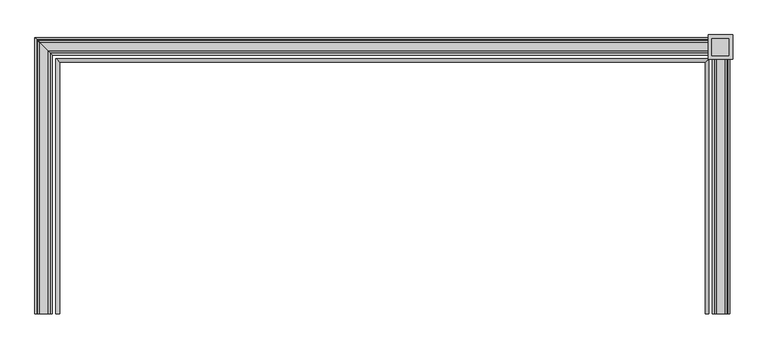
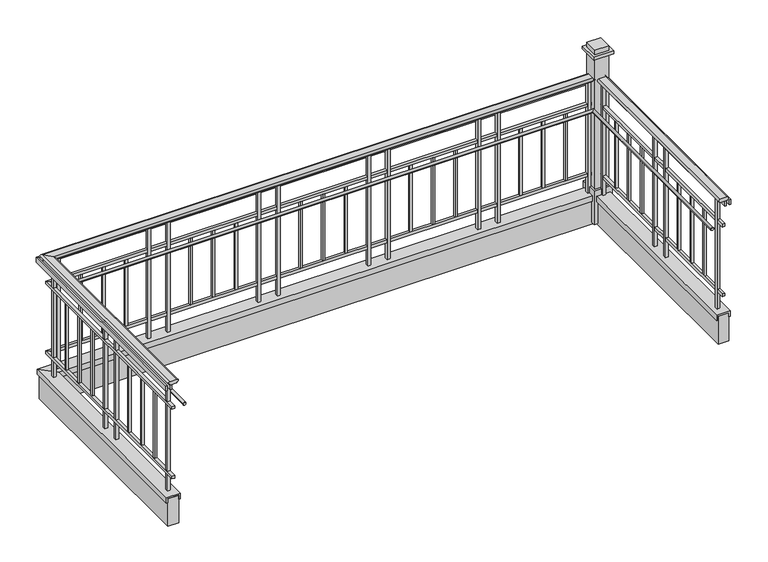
"""IFC4 building model written with IfcOpenShell, lengths in millimetres: railing geometry, Deco Type."""

from ifc_helpers import new_model, si_unit, frame, origin, place, context, project, spatial, polyline, circle_curve, ellipse_curve, outline, extrude, faceted_brep, source, transform, mapped, element, save
from ifc_brep_helpers import plane_surface, cylinder_surface, advanced_brep


def railing_224be4dd(model_context):
    return source(origin(), model_context, "Body", "SolidModel", [
        advanced_brep(
        [(-11325.7002872, 11455.7088201, 4146.55), (-11389.0500398, 11455.7088201, 4146.55), (-11389.0500398, 11455.7088201, 4124.261629), (-11389.0500398, 11455.7088201, 4114.8), (-11325.7002872, 11455.7088201, 4114.8), (-11325.7002872, 11455.7088201, 4124.3248415), (-11325.7002872, 13298.9465675, 4124.3248415), (-11325.7002872, 13298.9465675, 4146.55), (-11325.7002872, 13298.9465675, 4114.8), (-11389.0500398, 13362.2963201, 4114.8), (-11389.0500398, 13362.2963201, 4124.261629), (-11389.0500398, 13362.2963201, 4146.55), (-6640.6872924, 13298.9465675, 4124.3248415), (-6640.6872924, 13298.9465675, 4146.55), (-6640.6872924, 13298.9465675, 4114.8), (-6577.3375398, 13362.2963201, 4114.8), (-6577.3375398, 13362.2963201, 4124.261629), (-6577.3375398, 13362.2963201, 4146.55), (-6640.6872924, 11455.7088201, 4146.55), (-6640.6872924, 11455.7088201, 4124.3248415), (-6640.6872924, 11455.7088201, 4114.8), (-6577.3375398, 11455.7088201, 4114.8), (-6577.3375398, 11455.7088201, 4124.261629), (-6577.3375398, 11455.7088201, 4146.55)],
        [
            (0, 1),
            (1, 2, circle_curve(frame((-11389.0500398, 11455.7088201, 4135.4058145), z_axis=(0.0, -1.0, 0.0), x_axis=(-1.0, 0.0, 0.0)), 11.1441855)),
            (2, 3),
            (3, 4),
            (4, 5),
            (5, 0, circle_curve(frame((-11325.7002872, 11455.7088201, 4135.4374207), z_axis=(0.0, -1.0, 0.0), x_axis=(-1.0, 0.0, 0.0)), 11.1125793)),
            (5, 6),
            (6, 7, ellipse_curve(frame((-11325.7002872, 13298.9465675, 4135.4374207), z_axis=(-0.7071067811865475, -0.7071067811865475, 0.0), x_axis=(0.7071067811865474, -0.7071067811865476, 0.0)), 15.7155603, 11.1125793)),
            (7, 0),
            (4, 8),
            (8, 6),
            (3, 9),
            (9, 8),
            (2, 10),
            (10, 9),
            (1, 11),
            (11, 10, ellipse_curve(frame((-11389.0500398, 13362.2963201, 4135.4058145), z_axis=(-0.7071067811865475, -0.7071067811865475, 0.0), x_axis=(0.7071067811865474, -0.7071067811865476, 0.0)), 15.7602583, 11.1441855)),
            (7, 11),
            (6, 12),
            (12, 13, ellipse_curve(frame((-6640.6872924, 13298.9465675, 4135.4374207), z_axis=(-0.7071067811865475, 0.7071067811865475, 0.0), x_axis=(-0.7071067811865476, -0.7071067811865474, 0.0)), 15.7155603, 11.1125793)),
            (13, 7),
            (8, 14),
            (14, 12),
            (9, 15),
            (15, 14),
            (10, 16),
            (16, 15),
            (11, 17),
            (17, 16, ellipse_curve(frame((-6577.3375398, 13362.2963201, 4135.4058145), z_axis=(-0.7071067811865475, 0.7071067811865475, 0.0), x_axis=(-0.7071067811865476, -0.7071067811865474, 0.0)), 15.7602583, 11.1441855)),
            (13, 17),
            (18, 19, circle_curve(frame((-6640.6872924, 11455.7088201, 4135.4374207), z_axis=(0.0, -1.0, 0.0), x_axis=(1.0, 0.0, 0.0)), 11.1125793)),
            (19, 20),
            (20, 21),
            (21, 22),
            (22, 23, circle_curve(frame((-6577.3375398, 11455.7088201, 4135.4058145), z_axis=(0.0, -1.0, 0.0), x_axis=(1.0, 0.0, 0.0)), 11.1441855)),
            (23, 18),
            (12, 19),
            (18, 13),
            (14, 20),
            (15, 21),
            (16, 22),
            (17, 23),
        ],
        [
            plane_surface(frame((-11357.3000398, 11455.7088201, 4114.8), z_axis=(0.0, -1.0, 0.0), x_axis=(0.0, 0.0, 1.0))),
            cylinder_surface(frame((-11325.7002872, 11455.7088201, 4135.4374207), z_axis=(0.0, -1.0, 0.0), x_axis=(-1.0, 0.0, 0.0)), 11.1125793),
            plane_surface(frame((-11325.7002872, 11455.7088201, 4114.8), z_axis=(1.0, 0.0, 0.0), x_axis=(0.0, 1.0, 0.0))),
            plane_surface(frame((-11389.0500398, 11455.7088201, 4114.8), z_axis=(0.0, 0.0, -1.0), x_axis=(0.0, 1.0, 0.0))),
            plane_surface(frame((-11389.0500398, 11455.7088201, 4124.261629), z_axis=(-1.0, 0.0, 0.0), x_axis=(0.0, 1.0, 0.0))),
            cylinder_surface(frame((-11389.0500398, 11455.7088201, 4135.4058145), z_axis=(0.0, -1.0, 0.0), x_axis=(-1.0, 0.0, 0.0)), 11.1441855),
            plane_surface(frame((-11325.7002872, 11455.7088201, 4146.55), z_axis=(0.0, 0.0, 1.0), x_axis=(0.0, 1.0, 0.0))),
            cylinder_surface(frame((-11357.3000398, 13298.9465675, 4135.4374207), z_axis=(-1.0, 0.0, 0.0), x_axis=(0.0, 1.0, 0.0)), 11.1125793),
            plane_surface(frame((-11325.7002872, 13298.9465675, 4114.8), z_axis=(0.0, -1.0, 0.0), x_axis=(1.0, 0.0, 0.0))),
            plane_surface(frame((-11389.0500398, 13362.2963201, 4114.8), z_axis=(0.0, 0.0, -1.0), x_axis=(1.0, 0.0, 0.0))),
            plane_surface(frame((-11389.0500398, 13362.2963201, 4124.261629), z_axis=(0.0, 1.0, 0.0), x_axis=(1.0, 0.0, 0.0))),
            cylinder_surface(frame((-11357.3000398, 13362.2963201, 4135.4058145), z_axis=(-1.0, 0.0, 0.0), x_axis=(0.0, 1.0, 0.0)), 11.1441855),
            plane_surface(frame((-11325.7002872, 13298.9465675, 4146.55), z_axis=(0.0, 0.0, 1.0), x_axis=(1.0, 0.0, 0.0))),
            plane_surface(frame((-6609.0875398, 11455.7088201, 4114.8), z_axis=(0.0, -1.0, 0.0), x_axis=(0.0, 0.0, -1.0))),
            cylinder_surface(frame((-6640.6872924, 13330.5463201, 4135.4374207), z_axis=(0.0, 1.0, 0.0), x_axis=(1.0, 0.0, 0.0)), 11.1125793),
            plane_surface(frame((-6640.6872924, 13298.9465675, 4114.8), z_axis=(-1.0, 0.0, 0.0), x_axis=(0.0, -1.0, 0.0))),
            plane_surface(frame((-6577.3375398, 13362.2963201, 4114.8), z_axis=(0.0, 0.0, -1.0), x_axis=(0.0, -1.0, 0.0))),
            plane_surface(frame((-6577.3375398, 13362.2963201, 4124.261629), z_axis=(1.0, 0.0, 0.0), x_axis=(0.0, -1.0, 0.0))),
            cylinder_surface(frame((-6577.3375398, 13330.5463201, 4135.4058145), z_axis=(0.0, 1.0, 0.0), x_axis=(1.0, 0.0, 0.0)), 11.1441855),
            plane_surface(frame((-6640.6872924, 13298.9465675, 4146.55), z_axis=(0.0, 0.0, 1.0), x_axis=(0.0, -1.0, 0.0))),
        ],
        [
            (0, [[1, 2, 3, 4, 5, 6]]),
            (1, [[-6, 7, 8, 9]]),
            (2, [[-5, 10, 11, -7]]),
            (3, [[-4, 12, 13, -10]]),
            (4, [[-3, 14, 15, -12]]),
            (5, [[-2, 16, 17, -14]]),
            (6, [[-1, -9, 18, -16]]),
            (7, [[-8, 19, 20, 21]]),
            (8, [[-11, 22, 23, -19]]),
            (9, [[-13, 24, 25, -22]]),
            (10, [[-15, 26, 27, -24]]),
            (11, [[-17, 28, 29, -26]]),
            (12, [[-18, -21, 30, -28]]),
            (13, [[31, 32, 33, 34, 35, 36]]),
            (14, [[-20, 37, -31, 38]]),
            (15, [[-23, 39, -32, -37]]),
            (16, [[-25, 40, -33, -39]]),
            (17, [[-27, 41, -34, -40]]),
            (18, [[-29, 42, -35, -41]]),
            (19, [[-30, -38, -36, -42]]),
        ],
    ),
        faceted_brep([(-11382.7751635, 11455.7088201, 4114.8), (-11382.7751635, 11455.7088201, 4070.35), (-11370.0751635, 11455.7088201, 4070.35), (-11370.0751635, 11455.7088201, 4114.8), (-11370.0751635, 13343.3214438, 4114.8), (-11382.7751635, 13356.0214438, 4114.8), (-11370.0751635, 13343.3214438, 4070.35), (-11382.7751635, 13356.0214438, 4070.35), (-6596.3124161, 13343.3214438, 4114.8), (-6583.6124161, 13356.0214438, 4114.8), (-6596.3124161, 13343.3214438, 4070.35), (-6583.6124161, 13356.0214438, 4070.35), (-6583.6124161, 11455.7088201, 4114.8), (-6596.3124161, 11455.7088201, 4114.8), (-6596.3124161, 11455.7088201, 4070.35), (-6583.6124161, 11455.7088201, 4070.35)], [[[0, 1, 2, 3]], [[0, 3, 4, 5]], [[3, 2, 6, 4]], [[2, 1, 7, 6]], [[1, 0, 5, 7]], [[5, 4, 8, 9]], [[4, 6, 10, 8]], [[6, 7, 11, 10]], [[7, 5, 9, 11]], [[12, 13, 14, 15]], [[9, 8, 13, 12]], [[8, 10, 14, 13]], [[10, 11, 15, 14]], [[11, 9, 12, 15]]]),
        faceted_brep([(-11420.8751635, 11455.7088201, 4114.8), (-11420.8751635, 11455.7088201, 4070.35), (-11408.1751635, 11455.7088201, 4070.35), (-11408.1751635, 11455.7088201, 4114.8), (-11408.1751635, 13381.4214438, 4114.8), (-11420.8751635, 13394.1214438, 4114.8), (-11408.1751635, 13381.4214438, 4070.35), (-11420.8751635, 13394.1214438, 4070.35), (-6558.2124161, 13381.4214438, 4114.8), (-6545.5124161, 13394.1214438, 4114.8), (-6558.2124161, 13381.4214438, 4070.35), (-6545.5124161, 13394.1214438, 4070.35), (-6545.5124161, 11455.7088201, 4114.8), (-6558.2124161, 11455.7088201, 4114.8), (-6558.2124161, 11455.7088201, 4070.35), (-6545.5124161, 11455.7088201, 4070.35)], [[[0, 1, 2, 3]], [[0, 3, 4, 5]], [[3, 2, 6, 4]], [[2, 1, 7, 6]], [[1, 0, 5, 7]], [[5, 4, 8, 9]], [[4, 6, 10, 8]], [[6, 7, 11, 10]], [[7, 5, 9, 11]], [[12, 13, 14, 15]], [[9, 8, 13, 12]], [[8, 10, 14, 13]], [[10, 11, 15, 14]], [[11, 9, 12, 15]]]),
        faceted_brep([(-11370.0000398, 11455.7088201, 3911.6), (-11370.0000398, 11455.7088201, 3886.2), (-11344.6000398, 11455.7088201, 3886.2), (-11344.6000398, 11455.7088201, 3911.6), (-11344.6000398, 13317.8463201, 3911.6), (-11370.0000398, 13343.2463201, 3911.6), (-11344.6000398, 13317.8463201, 3886.2), (-11370.0000398, 13343.2463201, 3886.2), (-6621.7875398, 13317.8463201, 3911.6), (-6596.3875398, 13343.2463201, 3911.6), (-6621.7875398, 13317.8463201, 3886.2), (-6596.3875398, 13343.2463201, 3886.2), (-6596.3875398, 11455.7088201, 3911.6), (-6621.7875398, 11455.7088201, 3911.6), (-6621.7875398, 11455.7088201, 3886.2), (-6596.3875398, 11455.7088201, 3886.2)], [[[0, 1, 2, 3]], [[0, 3, 4, 5]], [[3, 2, 6, 4]], [[2, 1, 7, 6]], [[1, 0, 5, 7]], [[5, 4, 8, 9]], [[4, 6, 10, 8]], [[6, 7, 11, 10]], [[7, 5, 9, 11]], [[12, 13, 14, 15]], [[9, 8, 13, 12]], [[8, 10, 14, 13]], [[10, 11, 15, 14]], [[11, 9, 12, 15]]]),
        advanced_brep(
        [(-11247.7625398, 11455.7088201, 3898.9), (-11273.1625398, 11455.7088201, 3898.9), (-11273.1625398, 13246.4088201, 3898.9), (-11247.7625398, 13221.0088201, 3898.9), (-6693.2250398, 13246.4088201, 3898.9), (-6718.6250398, 13221.0088201, 3898.9), (-6718.6250398, 11455.7088201, 3898.9), (-6693.2250398, 11455.7088201, 3898.9)],
        [
            (0, 1, circle_curve(frame((-11260.4625398, 11455.7088201, 3898.9), z_axis=(0.0, -1.0, 0.0), x_axis=(-1.0, 0.0, 0.0)), 12.7)),
            (1, 0, circle_curve(frame((-11260.4625398, 11455.7088201, 3898.9), z_axis=(0.0, -1.0, 0.0), x_axis=(-1.0, 0.0, 0.0)), 12.7)),
            (1, 2),
            (2, 3, ellipse_curve(frame((-11260.4625398, 13233.7088201, 3898.9), z_axis=(-0.7071067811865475, -0.7071067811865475, 0.0), x_axis=(0.7071067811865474, -0.7071067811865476, 0.0)), 17.9605122, 12.7)),
            (3, 0),
            (3, 2, ellipse_curve(frame((-11260.4625398, 13233.7088201, 3898.9), z_axis=(-0.7071067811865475, -0.7071067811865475, 0.0), x_axis=(0.7071067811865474, -0.7071067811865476, 0.0)), 17.9605122, 12.7)),
            (2, 4),
            (4, 5, ellipse_curve(frame((-6705.9250398, 13233.7088201, 3898.9), z_axis=(-0.7071067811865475, 0.7071067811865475, 0.0), x_axis=(-0.7071067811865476, -0.7071067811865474, 0.0)), 17.9605122, 12.7)),
            (5, 3),
            (5, 4, ellipse_curve(frame((-6705.9250398, 13233.7088201, 3898.9), z_axis=(-0.7071067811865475, 0.7071067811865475, 0.0), x_axis=(-0.7071067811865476, -0.7071067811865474, 0.0)), 17.9605122, 12.7)),
            (6, 7, circle_curve(frame((-6705.9250398, 11455.7088201, 3898.9), z_axis=(0.0, -1.0, 0.0), x_axis=(1.0, 0.0, 0.0)), 12.7)),
            (7, 6, circle_curve(frame((-6705.9250398, 11455.7088201, 3898.9), z_axis=(0.0, -1.0, 0.0), x_axis=(1.0, 0.0, 0.0)), 12.7)),
            (4, 7),
            (6, 5),
        ],
        [
            plane_surface(frame((-11260.4625398, 11455.7088201, 3898.9), z_axis=(0.0, -1.0, 0.0), x_axis=(0.0, 0.0, 1.0))),
            cylinder_surface(frame((-11260.4625398, 11455.7088201, 3898.9), z_axis=(0.0, -1.0, 0.0), x_axis=(-1.0, 0.0, 0.0)), 12.7),
            cylinder_surface(frame((-11260.4625398, 13233.7088201, 3898.9), z_axis=(-1.0, 0.0, 0.0), x_axis=(0.0, 1.0, 0.0)), 12.7),
            plane_surface(frame((-6705.9250398, 11455.7088201, 3898.9), z_axis=(0.0, -1.0, 0.0), x_axis=(0.0, 0.0, -1.0))),
            cylinder_surface(frame((-6705.9250398, 13233.7088201, 3898.9), z_axis=(0.0, 1.0, 0.0), x_axis=(1.0, 0.0, 0.0)), 12.7),
        ],
        [
            (0, [[1, 2]]),
            (1, [[-2, 3, 4, 5]]),
            (1, [[-1, -5, 6, -3]]),
            (2, [[-4, 7, 8, 9]]),
            (2, [[-6, -9, 10, -7]]),
            (3, [[11, 12]]),
            (4, [[-8, 13, -11, 14]]),
            (4, [[-10, -14, -12, -13]]),
        ],
    ),
        faceted_brep([(-11370.0000398, 11455.7088201, 3276.6), (-11370.0000398, 11455.7088201, 3251.2), (-11344.6000398, 11455.7088201, 3251.2), (-11344.6000398, 11455.7088201, 3276.6), (-11344.6000398, 13317.8463201, 3276.6), (-11370.0000398, 13343.2463201, 3276.6), (-11344.6000398, 13317.8463201, 3251.2), (-11370.0000398, 13343.2463201, 3251.2), (-6621.7875398, 13317.8463201, 3276.6), (-6596.3875398, 13343.2463201, 3276.6), (-6621.7875398, 13317.8463201, 3251.2), (-6596.3875398, 13343.2463201, 3251.2), (-6596.3875398, 11455.7088201, 3276.6), (-6621.7875398, 11455.7088201, 3276.6), (-6621.7875398, 11455.7088201, 3251.2), (-6596.3875398, 11455.7088201, 3251.2)], [[[0, 1, 2, 3]], [[0, 3, 4, 5]], [[3, 2, 6, 4]], [[2, 1, 7, 6]], [[1, 0, 5, 7]], [[5, 4, 8, 9]], [[4, 6, 10, 8]], [[6, 7, 11, 10]], [[7, 5, 9, 11]], [[12, 13, 14, 15]], [[9, 8, 13, 12]], [[8, 10, 14, 13]], [[10, 11, 15, 14]], [[11, 9, 12, 15]]]),
        faceted_brep([(-11298.6376635, 11455.7088201, 3097.0362864), (-11416.1126635, 11455.7088201, 3097.0362864), (-11416.1126635, 11455.7088201, 3048.0), (-11403.4126635, 11455.7088201, 3048.0), (-11403.4126635, 11455.7088201, 3084.3362864), (-11311.3376635, 11455.7088201, 3084.3362864), (-11311.3376635, 11455.7088201, 3048.0), (-11298.6376635, 11455.7088201, 3048.0), (-11298.6376635, 13271.8839438, 3048.0), (-11298.6376635, 13271.8839438, 3097.0362864), (-11311.3376635, 13284.5839438, 3048.0), (-11311.3376635, 13284.5839438, 3084.3362864), (-11403.4126635, 13376.6589438, 3084.3362864), (-11403.4126635, 13376.6589438, 3048.0), (-11416.1126635, 13389.3589438, 3048.0), (-11416.1126635, 13389.3589438, 3097.0362864), (-6667.7499161, 13271.8839438, 3048.0), (-6667.7499161, 13271.8839438, 3097.0362864), (-6655.0499161, 13284.5839438, 3048.0), (-6655.0499161, 13284.5839438, 3084.3362864), (-6562.9749161, 13376.6589438, 3084.3362864), (-6562.9749161, 13376.6589438, 3048.0), (-6550.2749161, 13389.3589438, 3048.0), (-6550.2749161, 13389.3589438, 3097.0362864), (-6667.7499161, 11455.7088201, 3097.0362864), (-6667.7499161, 11455.7088201, 3048.0), (-6655.0499161, 11455.7088201, 3048.0), (-6655.0499161, 11455.7088201, 3084.3362864), (-6562.9749161, 11455.7088201, 3084.3362864), (-6562.9749161, 11455.7088201, 3048.0), (-6550.2749161, 11455.7088201, 3048.0), (-6550.2749161, 11455.7088201, 3097.0362864)], [[[0, 1, 2, 3, 4, 5, 6, 7]], [[0, 7, 8, 9]], [[7, 6, 10, 8]], [[6, 5, 11, 10]], [[5, 4, 12, 11]], [[4, 3, 13, 12]], [[3, 2, 14, 13]], [[2, 1, 15, 14]], [[1, 0, 9, 15]], [[9, 8, 16, 17]], [[8, 10, 18, 16]], [[10, 11, 19, 18]], [[11, 12, 20, 19]], [[12, 13, 21, 20]], [[13, 14, 22, 21]], [[14, 15, 23, 22]], [[15, 9, 17, 23]], [[24, 25, 26, 27, 28, 29, 30, 31]], [[17, 16, 25, 24]], [[16, 18, 26, 25]], [[18, 19, 27, 26]], [[19, 20, 28, 27]], [[20, 21, 29, 28]], [[21, 22, 30, 29]], [[22, 23, 31, 30]], [[23, 17, 24, 31]]]),
        faceted_brep([(-11311.3376635, 11455.7088201, 3084.3362864), (-11403.4126635, 11455.7088201, 3084.3362864), (-11403.4126635, 11455.7088201, 2830.3362864), (-11311.3376635, 11455.7088201, 2830.3362864), (-11311.3376635, 13284.5839438, 2830.3362864), (-11311.3376635, 13284.5839438, 3084.3362864), (-11403.4126635, 13376.6589438, 2830.3362864), (-11403.4126635, 13376.6589438, 3084.3362864), (-6655.0499161, 13284.5839438, 2830.3362864), (-6655.0499161, 13284.5839438, 3084.3362864), (-6562.9749161, 13376.6589438, 2830.3362864), (-6562.9749161, 13376.6589438, 3084.3362864), (-6655.0499161, 11455.7088201, 3084.3362864), (-6655.0499161, 11455.7088201, 2830.3362864), (-6562.9749161, 11455.7088201, 2830.3362864), (-6562.9749161, 11455.7088201, 3084.3362864)], [[[0, 1, 2, 3]], [[0, 3, 4, 5]], [[3, 2, 6, 4]], [[2, 1, 7, 6]], [[1, 0, 5, 7]], [[5, 4, 8, 9]], [[4, 6, 10, 8]], [[6, 7, 11, 10]], [[7, 5, 9, 11]], [[12, 13, 14, 15]], [[9, 8, 13, 12]], [[8, 10, 14, 13]], [[10, 11, 15, 14]], [[11, 9, 12, 15]]]),
        extrude(outline(polyline([(-6599.1656648, 11550.9996749), (-6599.1656648, 11525.5996749), (-6624.5656648, 11525.5996749), (-6624.5656648, 11550.9996749), (-6599.1656648, 11550.9996749)])), frame((0.0, 0.0, 3097.0362864), z_axis=(0.0, 0.0, 1.0), x_axis=(1.0, 0.0, 0.0)), (0.0, 0.0, 1.0), 1017.7637136),
        extrude(outline(polyline([(-6602.3406648, 11740.5366693), (-6602.3406648, 11721.4866693), (-6621.3906648, 11721.4866693), (-6621.3906648, 11740.5366693), (-6602.3406648, 11740.5366693)])), frame((0.0, 0.0, 3276.6), z_axis=(0.0, 0.0, 1.0), x_axis=(1.0, 0.0, 0.0)), (0.0, 0.0, 1.0), 609.6),
        extrude(outline(polyline([(-6602.3406648, 11933.2486638), (-6602.3406648, 11914.1986638), (-6621.3906648, 11914.1986638), (-6621.3906648, 11933.2486638), (-6602.3406648, 11933.2486638)])), frame((0.0, 0.0, 3276.6), z_axis=(0.0, 0.0, 1.0), x_axis=(1.0, 0.0, 0.0)), (0.0, 0.0, 1.0), 609.6),
        extrude(outline(polyline([(-6602.3406648, 12125.9606583), (-6602.3406648, 12106.9106583), (-6621.3906648, 12106.9106583), (-6621.3906648, 12125.9606583), (-6602.3406648, 12125.9606583)])), frame((0.0, 0.0, 3276.6), z_axis=(0.0, 0.0, 1.0), x_axis=(1.0, 0.0, 0.0)), (0.0, 0.0, 1.0), 609.6),
        extrude(outline(polyline([(-6599.1656648, 12321.8476528), (-6599.1656648, 12296.4476528), (-6624.5656648, 12296.4476528), (-6624.5656648, 12321.8476528), (-6599.1656648, 12321.8476528)])), frame((0.0, 0.0, 3097.0362864), z_axis=(0.0, 0.0, 1.0), x_axis=(1.0, 0.0, 0.0)), (0.0, 0.0, 1.0), 1017.7637136),
        extrude(outline(polyline([(-6599.1656648, 12487.0293624), (-6599.1656648, 12461.6293624), (-6624.5656648, 12461.6293624), (-6624.5656648, 12487.0293624), (-6599.1656648, 12487.0293624)])), frame((0.0, 0.0, 3097.0362864), z_axis=(0.0, 0.0, 1.0), x_axis=(1.0, 0.0, 0.0)), (0.0, 0.0, 1.0), 1017.7637136),
        extrude(outline(polyline([(-6602.3406648, 12676.5663568), (-6602.3406648, 12657.5163568), (-6621.3906648, 12657.5163568), (-6621.3906648, 12676.5663568), (-6602.3406648, 12676.5663568)])), frame((0.0, 0.0, 3276.6), z_axis=(0.0, 0.0, 1.0), x_axis=(1.0, 0.0, 0.0)), (0.0, 0.0, 1.0), 609.6),
        extrude(outline(polyline([(-6602.3406648, 12869.2783513), (-6602.3406648, 12850.2283513), (-6621.3906648, 12850.2283513), (-6621.3906648, 12869.2783513), (-6602.3406648, 12869.2783513)])), frame((0.0, 0.0, 3276.6), z_axis=(0.0, 0.0, 1.0), x_axis=(1.0, 0.0, 0.0)), (0.0, 0.0, 1.0), 609.6),
        extrude(outline(polyline([(-6602.3406648, 13061.9903458), (-6602.3406648, 13042.9403458), (-6621.3906648, 13042.9403458), (-6621.3906648, 13061.9903458), (-6602.3406648, 13061.9903458)])), frame((0.0, 0.0, 3276.6), z_axis=(0.0, 0.0, 1.0), x_axis=(1.0, 0.0, 0.0)), (0.0, 0.0, 1.0), 609.6),
        extrude(outline(polyline([(-6599.1656648, 13257.8773403), (-6599.1656648, 13232.4773403), (-6624.5656648, 13232.4773403), (-6624.5656648, 13257.8773403), (-6599.1656648, 13257.8773403)])), frame((0.0, 0.0, 3097.0362864), z_axis=(0.0, 0.0, 1.0), x_axis=(1.0, 0.0, 0.0)), (0.0, 0.0, 1.0), 1017.7637136),
        extrude(outline(polyline([(-6708.2595986, 13340.4681951), (-6682.8595986, 13340.4681951), (-6682.8595986, 13315.0681951), (-6708.2595986, 13315.0681951), (-6708.2595986, 13340.4681951)])), frame((0.0, 0.0, 3097.0362864), z_axis=(0.0, 0.0, 1.0), x_axis=(1.0, 0.0, 0.0)), (0.0, 0.0, 1.0), 1017.7637136),
        extrude(outline(polyline([(-6900.3704442, 13337.2931951), (-6881.3204442, 13337.2931951), (-6881.3204442, 13318.2431951), (-6900.3704442, 13318.2431951), (-6900.3704442, 13337.2931951)])), frame((0.0, 0.0, 3276.6), z_axis=(0.0, 0.0, 1.0), x_axis=(1.0, 0.0, 0.0)), (0.0, 0.0, 1.0), 609.6),
        extrude(outline(polyline([(-7095.6562898, 13337.2931951), (-7076.6062898, 13337.2931951), (-7076.6062898, 13318.2431951), (-7095.6562898, 13318.2431951), (-7095.6562898, 13337.2931951)])), frame((0.0, 0.0, 3276.6), z_axis=(0.0, 0.0, 1.0), x_axis=(1.0, 0.0, 0.0)), (0.0, 0.0, 1.0), 609.6),
        extrude(outline(polyline([(-7290.9421354, 13337.2931951), (-7271.8921354, 13337.2931951), (-7271.8921354, 13318.2431951), (-7290.9421354, 13318.2431951), (-7290.9421354, 13337.2931951)])), frame((0.0, 0.0, 3276.6), z_axis=(0.0, 0.0, 1.0), x_axis=(1.0, 0.0, 0.0)), (0.0, 0.0, 1.0), 609.6),
        extrude(outline(polyline([(-7489.402981, 13340.4681951), (-7464.002981, 13340.4681951), (-7464.002981, 13315.0681951), (-7489.402981, 13315.0681951), (-7489.402981, 13340.4681951)])), frame((0.0, 0.0, 3097.0362864), z_axis=(0.0, 0.0, 1.0), x_axis=(1.0, 0.0, 0.0)), (0.0, 0.0, 1.0), 1017.7637136),
        extrude(outline(polyline([(-7656.7908486, 13340.4681951), (-7631.3908486, 13340.4681951), (-7631.3908486, 13315.0681951), (-7656.7908486, 13315.0681951), (-7656.7908486, 13340.4681951)])), frame((0.0, 0.0, 3097.0362864), z_axis=(0.0, 0.0, 1.0), x_axis=(1.0, 0.0, 0.0)), (0.0, 0.0, 1.0), 1017.7637136),
        extrude(outline(polyline([(-7848.9016942, 13337.2931951), (-7829.8516942, 13337.2931951), (-7829.8516942, 13318.2431951), (-7848.9016942, 13318.2431951), (-7848.9016942, 13337.2931951)])), frame((0.0, 0.0, 3276.6), z_axis=(0.0, 0.0, 1.0), x_axis=(1.0, 0.0, 0.0)), (0.0, 0.0, 1.0), 609.6),
        extrude(outline(polyline([(-8044.1875398, 13337.2931951), (-8025.1375398, 13337.2931951), (-8025.1375398, 13318.2431951), (-8044.1875398, 13318.2431951), (-8044.1875398, 13337.2931951)])), frame((0.0, 0.0, 3276.6), z_axis=(0.0, 0.0, 1.0), x_axis=(1.0, 0.0, 0.0)), (0.0, 0.0, 1.0), 609.6),
        extrude(outline(polyline([(-8239.4733854, 13337.2931951), (-8220.4233854, 13337.2931951), (-8220.4233854, 13318.2431951), (-8239.4733854, 13318.2431951), (-8239.4733854, 13337.2931951)])), frame((0.0, 0.0, 3276.6), z_axis=(0.0, 0.0, 1.0), x_axis=(1.0, 0.0, 0.0)), (0.0, 0.0, 1.0), 609.6),
        extrude(outline(polyline([(-8437.934231, 13340.4681951), (-8412.534231, 13340.4681951), (-8412.534231, 13315.0681951), (-8437.934231, 13315.0681951), (-8437.934231, 13340.4681951)])), frame((0.0, 0.0, 3097.0362864), z_axis=(0.0, 0.0, 1.0), x_axis=(1.0, 0.0, 0.0)), (0.0, 0.0, 1.0), 1017.7637136),
        extrude(outline(polyline([(-8605.3220986, 13340.4681951), (-8579.9220986, 13340.4681951), (-8579.9220986, 13315.0681951), (-8605.3220986, 13315.0681951), (-8605.3220986, 13340.4681951)])), frame((0.0, 0.0, 3097.0362864), z_axis=(0.0, 0.0, 1.0), x_axis=(1.0, 0.0, 0.0)), (0.0, 0.0, 1.0), 1017.7637136),
        extrude(outline(polyline([(-8797.4329442, 13337.2931951), (-8778.3829442, 13337.2931951), (-8778.3829442, 13318.2431951), (-8797.4329442, 13318.2431951), (-8797.4329442, 13337.2931951)])), frame((0.0, 0.0, 3276.6), z_axis=(0.0, 0.0, 1.0), x_axis=(1.0, 0.0, 0.0)), (0.0, 0.0, 1.0), 609.6),
        extrude(outline(polyline([(-8992.7187898, 13337.2931951), (-8973.6687898, 13337.2931951), (-8973.6687898, 13318.2431951), (-8992.7187898, 13318.2431951), (-8992.7187898, 13337.2931951)])), frame((0.0, 0.0, 3276.6), z_axis=(0.0, 0.0, 1.0), x_axis=(1.0, 0.0, 0.0)), (0.0, 0.0, 1.0), 609.6),
        extrude(outline(polyline([(-9188.0046354, 13337.2931951), (-9168.9546354, 13337.2931951), (-9168.9546354, 13318.2431951), (-9188.0046354, 13318.2431951), (-9188.0046354, 13337.2931951)])), frame((0.0, 0.0, 3276.6), z_axis=(0.0, 0.0, 1.0), x_axis=(1.0, 0.0, 0.0)), (0.0, 0.0, 1.0), 609.6),
        extrude(outline(polyline([(-9386.465481, 13340.4681951), (-9361.065481, 13340.4681951), (-9361.065481, 13315.0681951), (-9386.465481, 13315.0681951), (-9386.465481, 13340.4681951)])), frame((0.0, 0.0, 3097.0362864), z_axis=(0.0, 0.0, 1.0), x_axis=(1.0, 0.0, 0.0)), (0.0, 0.0, 1.0), 1017.7637136),
        extrude(outline(polyline([(-9553.8533486, 13340.4681951), (-9528.4533486, 13340.4681951), (-9528.4533486, 13315.0681951), (-9553.8533486, 13315.0681951), (-9553.8533486, 13340.4681951)])), frame((0.0, 0.0, 3097.0362864), z_axis=(0.0, 0.0, 1.0), x_axis=(1.0, 0.0, 0.0)), (0.0, 0.0, 1.0), 1017.7637136),
        extrude(outline(polyline([(-9745.9641942, 13337.2931951), (-9726.9141942, 13337.2931951), (-9726.9141942, 13318.2431951), (-9745.9641942, 13318.2431951), (-9745.9641942, 13337.2931951)])), frame((0.0, 0.0, 3276.6), z_axis=(0.0, 0.0, 1.0), x_axis=(1.0, 0.0, 0.0)), (0.0, 0.0, 1.0), 609.6),
        extrude(outline(polyline([(-9941.2500398, 13337.2931951), (-9922.2000398, 13337.2931951), (-9922.2000398, 13318.2431951), (-9941.2500398, 13318.2431951), (-9941.2500398, 13337.2931951)])), frame((0.0, 0.0, 3276.6), z_axis=(0.0, 0.0, 1.0), x_axis=(1.0, 0.0, 0.0)), (0.0, 0.0, 1.0), 609.6),
        extrude(outline(polyline([(-10136.5358854, 13337.2931951), (-10117.4858854, 13337.2931951), (-10117.4858854, 13318.2431951), (-10136.5358854, 13318.2431951), (-10136.5358854, 13337.2931951)])), frame((0.0, 0.0, 3276.6), z_axis=(0.0, 0.0, 1.0), x_axis=(1.0, 0.0, 0.0)), (0.0, 0.0, 1.0), 609.6),
        extrude(outline(polyline([(-10334.996731, 13340.4681951), (-10309.596731, 13340.4681951), (-10309.596731, 13315.0681951), (-10334.996731, 13315.0681951), (-10334.996731, 13340.4681951)])), frame((0.0, 0.0, 3097.0362864), z_axis=(0.0, 0.0, 1.0), x_axis=(1.0, 0.0, 0.0)), (0.0, 0.0, 1.0), 1017.7637136),
        extrude(outline(polyline([(-10502.3845986, 13340.4681951), (-10476.9845986, 13340.4681951), (-10476.9845986, 13315.0681951), (-10502.3845986, 13315.0681951), (-10502.3845986, 13340.4681951)])), frame((0.0, 0.0, 3097.0362864), z_axis=(0.0, 0.0, 1.0), x_axis=(1.0, 0.0, 0.0)), (0.0, 0.0, 1.0), 1017.7637136),
        extrude(outline(polyline([(-10694.4954442, 13337.2931951), (-10675.4454442, 13337.2931951), (-10675.4454442, 13318.2431951), (-10694.4954442, 13318.2431951), (-10694.4954442, 13337.2931951)])), frame((0.0, 0.0, 3276.6), z_axis=(0.0, 0.0, 1.0), x_axis=(1.0, 0.0, 0.0)), (0.0, 0.0, 1.0), 609.6),
        extrude(outline(polyline([(-10889.7812898, 13337.2931951), (-10870.7312898, 13337.2931951), (-10870.7312898, 13318.2431951), (-10889.7812898, 13318.2431951), (-10889.7812898, 13337.2931951)])), frame((0.0, 0.0, 3276.6), z_axis=(0.0, 0.0, 1.0), x_axis=(1.0, 0.0, 0.0)), (0.0, 0.0, 1.0), 609.6),
        extrude(outline(polyline([(-11085.0671354, 13337.2931951), (-11066.0171354, 13337.2931951), (-11066.0171354, 13318.2431951), (-11085.0671354, 13318.2431951), (-11085.0671354, 13337.2931951)])), frame((0.0, 0.0, 3276.6), z_axis=(0.0, 0.0, 1.0), x_axis=(1.0, 0.0, 0.0)), (0.0, 0.0, 1.0), 609.6),
        extrude(outline(polyline([(-11283.527981, 13340.4681951), (-11258.127981, 13340.4681951), (-11258.127981, 13315.0681951), (-11283.527981, 13315.0681951), (-11283.527981, 13340.4681951)])), frame((0.0, 0.0, 3097.0362864), z_axis=(0.0, 0.0, 1.0), x_axis=(1.0, 0.0, 0.0)), (0.0, 0.0, 1.0), 1017.7637136),
        extrude(outline(polyline([(-11367.2219148, 13232.4773403), (-11367.2219148, 13257.8773403), (-11341.8219148, 13257.8773403), (-11341.8219148, 13232.4773403), (-11367.2219148, 13232.4773403)])), frame((0.0, 0.0, 3097.0362864), z_axis=(0.0, 0.0, 1.0), x_axis=(1.0, 0.0, 0.0)), (0.0, 0.0, 1.0), 1017.7637136),
        extrude(outline(polyline([(-11364.0469148, 13042.9403458), (-11364.0469148, 13061.9903458), (-11344.9969148, 13061.9903458), (-11344.9969148, 13042.9403458), (-11364.0469148, 13042.9403458)])), frame((0.0, 0.0, 3276.6), z_axis=(0.0, 0.0, 1.0), x_axis=(1.0, 0.0, 0.0)), (0.0, 0.0, 1.0), 609.6),
        extrude(outline(polyline([(-11364.0469148, 12850.2283513), (-11364.0469148, 12869.2783513), (-11344.9969148, 12869.2783513), (-11344.9969148, 12850.2283513), (-11364.0469148, 12850.2283513)])), frame((0.0, 0.0, 3276.6), z_axis=(0.0, 0.0, 1.0), x_axis=(1.0, 0.0, 0.0)), (0.0, 0.0, 1.0), 609.6),
        extrude(outline(polyline([(-11364.0469148, 12657.5163568), (-11364.0469148, 12676.5663568), (-11344.9969148, 12676.5663568), (-11344.9969148, 12657.5163568), (-11364.0469148, 12657.5163568)])), frame((0.0, 0.0, 3276.6), z_axis=(0.0, 0.0, 1.0), x_axis=(1.0, 0.0, 0.0)), (0.0, 0.0, 1.0), 609.6),
        extrude(outline(polyline([(-11367.2219148, 12461.6293624), (-11367.2219148, 12487.0293624), (-11341.8219148, 12487.0293624), (-11341.8219148, 12461.6293624), (-11367.2219148, 12461.6293624)])), frame((0.0, 0.0, 3097.0362864), z_axis=(0.0, 0.0, 1.0), x_axis=(1.0, 0.0, 0.0)), (0.0, 0.0, 1.0), 1017.7637136),
        extrude(outline(polyline([(-11367.2219148, 12296.4476528), (-11367.2219148, 12321.8476528), (-11341.8219148, 12321.8476528), (-11341.8219148, 12296.4476528), (-11367.2219148, 12296.4476528)])), frame((0.0, 0.0, 3097.0362864), z_axis=(0.0, 0.0, 1.0), x_axis=(1.0, 0.0, 0.0)), (0.0, 0.0, 1.0), 1017.7637136),
        extrude(outline(polyline([(-11364.0469148, 12106.9106583), (-11364.0469148, 12125.9606583), (-11344.9969148, 12125.9606583), (-11344.9969148, 12106.9106583), (-11364.0469148, 12106.9106583)])), frame((0.0, 0.0, 3276.6), z_axis=(0.0, 0.0, 1.0), x_axis=(1.0, 0.0, 0.0)), (0.0, 0.0, 1.0), 609.6),
        extrude(outline(polyline([(-11364.0469148, 11914.1986638), (-11364.0469148, 11933.2486638), (-11344.9969148, 11933.2486638), (-11344.9969148, 11914.1986638), (-11364.0469148, 11914.1986638)])), frame((0.0, 0.0, 3276.6), z_axis=(0.0, 0.0, 1.0), x_axis=(1.0, 0.0, 0.0)), (0.0, 0.0, 1.0), 609.6),
        extrude(outline(polyline([(-11364.0469148, 11721.4866693), (-11364.0469148, 11740.5366693), (-11344.9969148, 11740.5366693), (-11344.9969148, 11721.4866693), (-11364.0469148, 11721.4866693)])), frame((0.0, 0.0, 3276.6), z_axis=(0.0, 0.0, 1.0), x_axis=(1.0, 0.0, 0.0)), (0.0, 0.0, 1.0), 609.6),
        extrude(outline(polyline([(-11367.2219148, 11525.5996749), (-11367.2219148, 11550.9996749), (-11341.8219148, 11550.9996749), (-11341.8219148, 11525.5996749), (-11367.2219148, 11525.5996749)])), frame((0.0, 0.0, 3097.0362864), z_axis=(0.0, 0.0, 1.0), x_axis=(1.0, 0.0, 0.0)), (0.0, 0.0, 1.0), 1017.7637136),
        extrude(outline(polyline([(-6691.2406648, 13248.3931951), (-6691.2406648, 13407.1431951), (-6532.4906648, 13407.1431951), (-6532.4906648, 13248.3931951), (-6691.2406648, 13248.3931951)])), frame((0.0, 0.0, 2844.8), z_axis=(0.0, 0.0, 1.0), x_axis=(1.0, 0.0, 0.0)), (0.0, 0.0, 1.0), 304.8),
        extrude(outline(polyline([(-6672.1906648, 13267.4431951), (-6672.1906648, 13388.0931951), (-6551.5406648, 13388.0931951), (-6551.5406648, 13267.4431951), (-6672.1906648, 13267.4431951)])), frame((0.0, 0.0, 3149.6), z_axis=(0.0, 0.0, 1.0), x_axis=(1.0, 0.0, 0.0)), (0.0, 0.0, 1.0), 1270.0),
        extrude(outline(polyline([(-6697.5906648, 13413.4931951), (-6526.1406648, 13413.4931951), (-6526.1406648, 13242.0431951), (-6697.5906648, 13242.0431951), (-6697.5906648, 13413.4931951)]), holes=[polyline([(-6551.5406648, 13388.0931951), (-6672.1906648, 13388.0931951), (-6672.1906648, 13267.4431951), (-6551.5406648, 13267.4431951), (-6551.5406648, 13388.0931951)])]), frame((0.0, 0.0, 4352.925), z_axis=(0.0, 0.0, 1.0), x_axis=(1.0, 0.0, 0.0)), (0.0, 0.0, 1.0), 25.4),
    ])


if __name__ == "__main__":
    model = new_model("IFC4")
    model_context = context("Model", 3, world=origin())
    ifc_project = project(units=[si_unit("LENGTHUNIT", "METRE", prefix="MILLI")], contexts=[model_context])
    site = spatial("IfcSite", under=ifc_project)
    building = spatial("IfcBuilding", under=site)
    placement = place(None, origin())
    railing_shape = railing_224be4dd(model_context)
    element("IfcRailing", 1, ObjectType="Deco Type", at=placement, inside=building, context=model_context, shape_type="MappedRepresentation", body=[
        mapped(railing_shape, transform((0.0, 0.0, 0.0), x_axis=(1.0, 0.0, 0.0), y_axis=(0.0, 1.0, 0.0), z_axis=(0.0, 0.0, 1.0))),
    ])
    save(model, "model.ifc")
